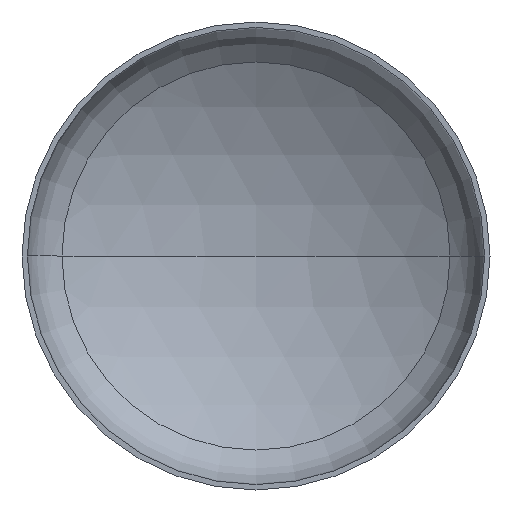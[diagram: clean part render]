
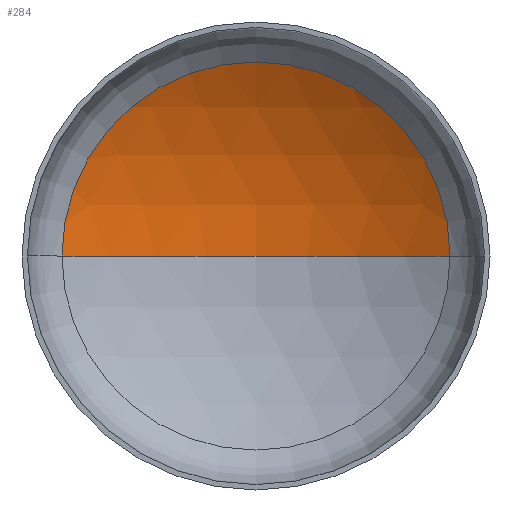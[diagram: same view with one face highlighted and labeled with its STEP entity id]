
A CAD part, front view. The second image highlights one B-rep face of the part: STEP entity #284.
In plain terms, the highlighted spherical face has radius 2560 mm.
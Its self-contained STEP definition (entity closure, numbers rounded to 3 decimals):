
#3 = AXIS2_PLACEMENT_3D ( 'NONE', #237, #394, #259 ) ;
#25 = CARTESIAN_POINT ( 'NONE',  ( -1326.995, 539.03, 0. ) ) ;
#27 = AXIS2_PLACEMENT_3D ( 'NONE', #181, #349, #208 ) ;
#37 = CARTESIAN_POINT ( 'NONE',  ( 0., -1650.19, 0. ) ) ;
#38 = DIRECTION ( 'NONE',  ( -1., 0., 0. ) ) ;
#46 = AXIS2_PLACEMENT_3D ( 'NONE', #37, #170, #38 ) ;
#93 = CARTESIAN_POINT ( 'NONE',  ( 0., -1650.19, 0. ) ) ;
#105 = ORIENTED_EDGE ( 'NONE', *, *, #326, .T. ) ;
#111 = VERTEX_POINT ( 'NONE', #25 ) ;
#115 = CIRCLE ( 'NONE', #361, 2560. ) ;
#144 = DIRECTION ( 'NONE',  ( -1., 0., 0. ) ) ;
#152 = EDGE_LOOP ( 'NONE', ( #203, #180, #105 ) ) ;
#170 = DIRECTION ( 'NONE',  ( 0., 0., -1. ) ) ;
#174 = VERTEX_POINT ( 'NONE', #291 ) ;
#180 = ORIENTED_EDGE ( 'NONE', *, *, #385, .T. ) ;
#181 = CARTESIAN_POINT ( 'NONE',  ( 0., 539.03, 0. ) ) ;
#203 = ORIENTED_EDGE ( 'NONE', *, *, #379, .F. ) ;
#208 = DIRECTION ( 'NONE',  ( 1., 0., 0. ) ) ;
#237 = CARTESIAN_POINT ( 'NONE',  ( 0., -1650.19, 0. ) ) ;
#259 = DIRECTION ( 'NONE',  ( 1., 0., 0. ) ) ;
#262 = CARTESIAN_POINT ( 'NONE',  ( 1326.995, 539.03, 0. ) ) ;
#284 = ADVANCED_FACE ( 'NONE', ( #373 ), #310, .F. ) ;
#291 = CARTESIAN_POINT ( 'NONE',  ( 0., 909.81, 0. ) ) ;
#294 = CIRCLE ( 'NONE', #27, 1326.995 ) ;
#308 = DIRECTION ( 'NONE',  ( 0., 0., -1. ) ) ;
#310 = SPHERICAL_SURFACE ( 'NONE', #46, 2560. ) ;
#326 = EDGE_CURVE ( 'NONE', #407, #111, #294, .T. ) ;
#349 = DIRECTION ( 'NONE',  ( 0., -1., 0. ) ) ;
#361 = AXIS2_PLACEMENT_3D ( 'NONE', #93, #308, #144 ) ;
#373 = FACE_OUTER_BOUND ( 'NONE', #152, .T. ) ;
#379 = EDGE_CURVE ( 'NONE', #174, #111, #387, .T. ) ;
#385 = EDGE_CURVE ( 'NONE', #174, #407, #115, .T. ) ;
#387 = CIRCLE ( 'NONE', #3, 2560. ) ;
#394 = DIRECTION ( 'NONE',  ( 0., 0., 1. ) ) ;
#407 = VERTEX_POINT ( 'NONE', #262 ) ;
